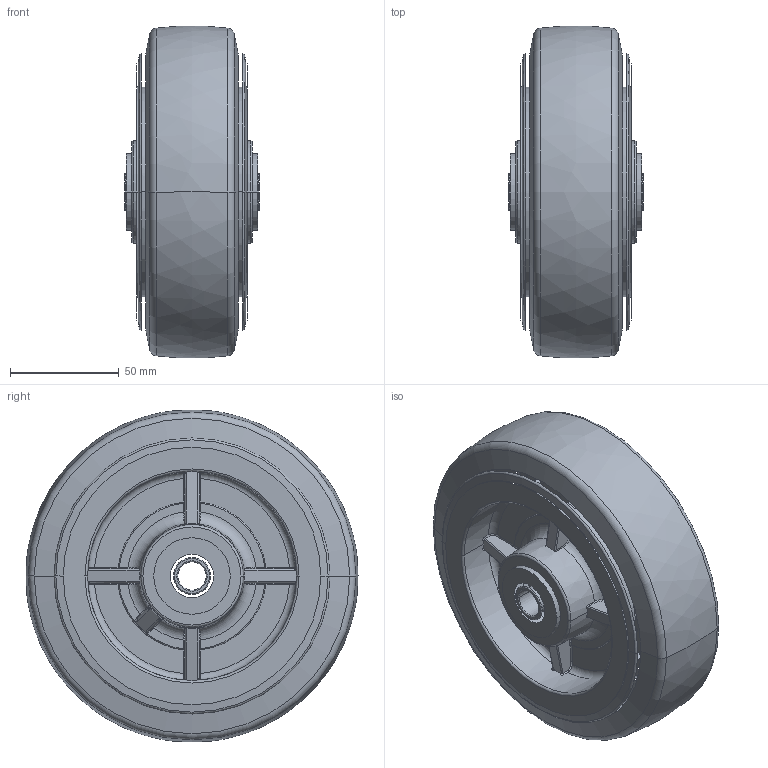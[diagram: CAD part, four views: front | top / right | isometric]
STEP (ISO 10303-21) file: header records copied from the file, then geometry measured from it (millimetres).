
FILE_DESCRIPTION((''),'2;1');
FILE_NAME('PRT0005','2025-10-17T16:19:21',('Administrator'),(''),'CREO PARAMETRIC BY PTC INC, 2022124','CREO PARAMETRIC BY PTC INC, 2022124','');
FILE_SCHEMA(('AUTOMOTIVE_DESIGN { 1 0 10303 214 1 1 1 1 }'));
Length unit declared in the file: millimetre
Products named in the file (1): PRT0005
Bounding box: 62 x 152.75 x 152.75 mm (x, y, z)
Surface area: 74345.4 mm2 (no closed solid volume)
Topology: 0 solids, 8 shells, 160 faces, 636 edges, 456 vertices
Faces by surface type: plane 57, torus 49, cylinder 24, cone 16, bspline 14
Entity records: 9250 total; most frequent: CARTESIAN_POINT 3418, ORIENTED_EDGE 883, DIRECTION 848, EDGE_CURVE 636, VERTEX_POINT 456, AXIS2_PLACEMENT_3D 355, B_SPLINE_CURVE_WITH_KNOTS 302, CIRCLE 199
